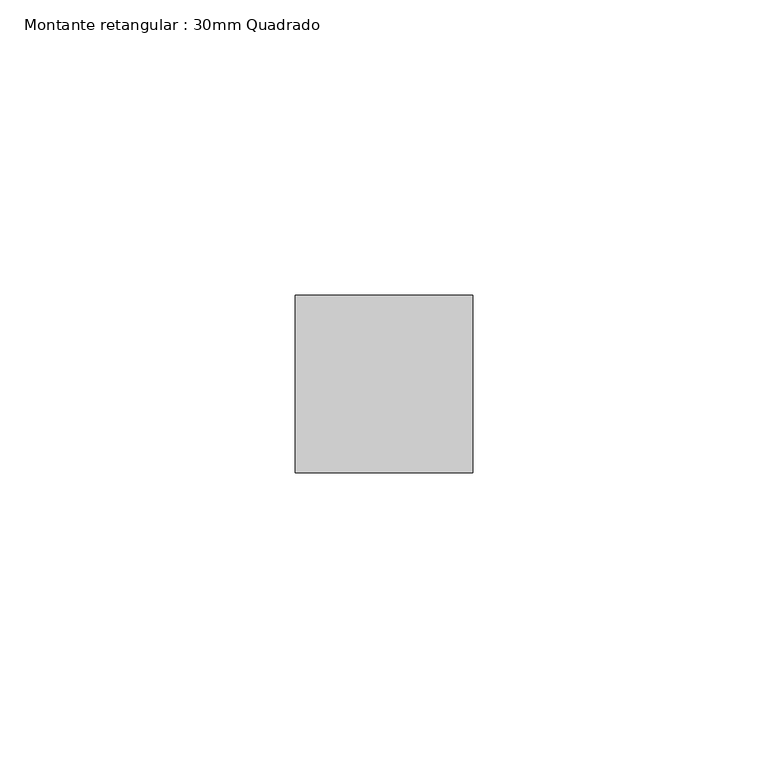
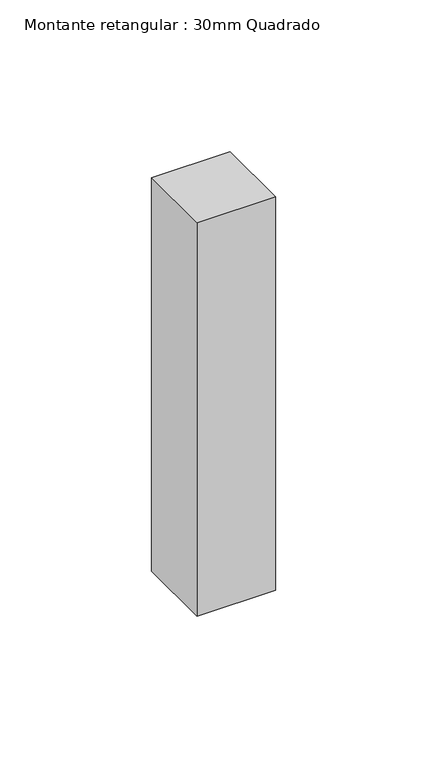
"""IFC4 building model written with IfcOpenShell, lengths in millimetres: member geometry, Montante retangular : 30mm Quadrado."""

from ifc_helpers import new_model, si_unit, frame, origin, place, context, project, spatial, polyline, outline, extrude, source, transform, mapped, element, save


def montante_retangular_30mm_quadrado_f5f8abc7(model_context):
    return source(origin(), model_context, "Body", "SweptSolid", [
        extrude(outline(polyline([(0.0, 15.0), (0.0, -15.0), (-30.0, -15.0), (-30.0, 15.0), (0.0, 15.0)])), frame((0.0, 0.0, -158.531459), z_axis=(0.0, 0.0, 1.0), x_axis=(1.0, 0.0, 0.0)), (0.0, 0.0, 1.0), 158.531459),
    ])


if __name__ == "__main__":
    model = new_model("IFC4")
    model_context = context("Model", 3, world=origin())
    ifc_project = project(units=[si_unit("LENGTHUNIT", "METRE", prefix="MILLI")], contexts=[model_context])
    site = spatial("IfcSite", under=ifc_project)
    building = spatial("IfcBuilding", under=site)
    placement = place(None, origin())
    montante_retangular_30mm_quadrado_shape = montante_retangular_30mm_quadrado_f5f8abc7(model_context)
    element("IfcMember", 1, ObjectType="Montante retangular : 30mm Quadrado", at=placement, inside=building, context=model_context, shape_type="MappedRepresentation", body=[
        mapped(montante_retangular_30mm_quadrado_shape, transform((0.0, 0.0, 0.0), x_axis=(1.0, 0.0, 0.0), y_axis=(0.0, 1.0, 0.0), z_axis=(0.0, 0.0, 1.0))),
    ])
    save(model, "model.ifc")
